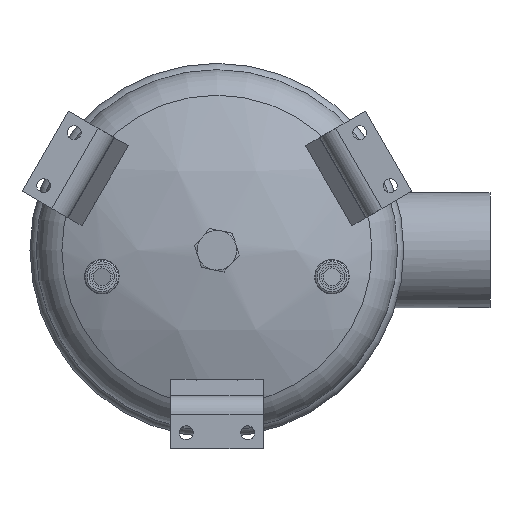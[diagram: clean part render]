
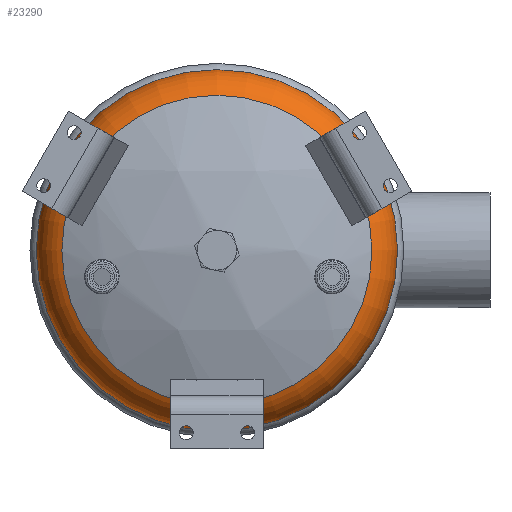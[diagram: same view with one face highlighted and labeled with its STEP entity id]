
A CAD part, front view. The second image highlights one B-rep face of the part: STEP entity #23290.
In plain terms, the highlighted toroidal (fillet/blend) face has major radius 103.2 mm and minor radius 33.4 mm.
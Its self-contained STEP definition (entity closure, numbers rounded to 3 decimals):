
#5294=TOROIDAL_SURFACE('',#24703,103.2,33.4);
#5316=FACE_BOUND('',#7429,.T.);
#5508=CIRCLE('',#24690,117.235);
#5521=CIRCLE('',#24704,136.6);
#6039=FACE_OUTER_BOUND('',#7428,.T.);
#7428=EDGE_LOOP('',(#16091));
#7429=EDGE_LOOP('',(#16092));
#9914=VERTEX_POINT('',#32332);
#9929=VERTEX_POINT('',#32429);
#12380=EDGE_CURVE('',#9914,#9914,#5508,.T.);
#12395=EDGE_CURVE('',#9929,#9929,#5521,.T.);
#16091=ORIENTED_EDGE('',*,*,#12380,.F.);
#16092=ORIENTED_EDGE('',*,*,#12395,.T.);
#23290=ADVANCED_FACE('',(#6039,#5316),#5294,.T.);
#24690=AXIS2_PLACEMENT_3D('',#32333,#26629,#26630);
#24703=AXIS2_PLACEMENT_3D('',#32428,#26655,#26656);
#24704=AXIS2_PLACEMENT_3D('',#32430,#26657,#26658);
#26629=DIRECTION('center_axis',(0.,-1.,0.));
#26630=DIRECTION('ref_axis',(-1.,0.,0.));
#26655=DIRECTION('center_axis',(0.,-1.,0.));
#26656=DIRECTION('ref_axis',(0.,0.,
1.));
#26657=DIRECTION('center_axis',(0.,-1.,0.));
#26658=DIRECTION('ref_axis',(-1.,0.,0.));
#32332=CARTESIAN_POINT('',(-117.235,-62.54,0.));
#32333=CARTESIAN_POINT('Origin',(0.,-62.54,
0.));
#32428=CARTESIAN_POINT('Origin',(0.,-32.232,
0.));
#32429=CARTESIAN_POINT('',(-136.6,-32.232,0.));
#32430=CARTESIAN_POINT('Origin',(0.,-32.232,
0.));
